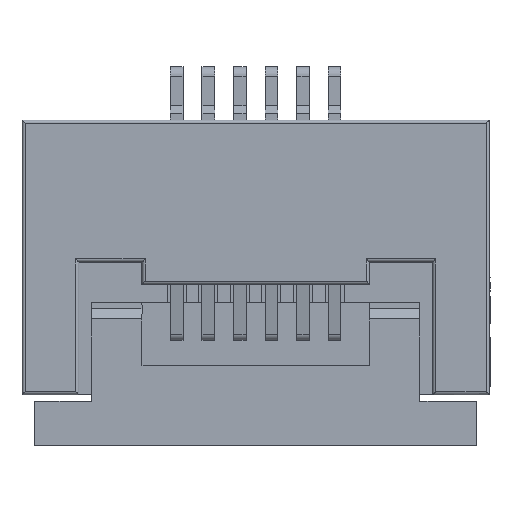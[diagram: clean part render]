
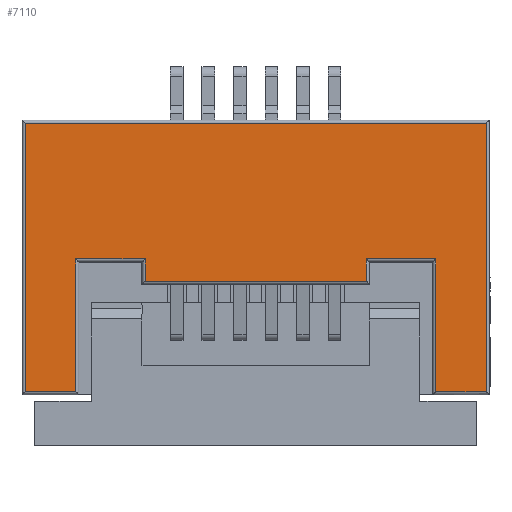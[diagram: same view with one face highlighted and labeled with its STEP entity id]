
A CAD part, top view. The second image highlights one B-rep face of the part: STEP entity #7110.
In plain terms, the highlighted planar face has unit normal (0, 0, 1).
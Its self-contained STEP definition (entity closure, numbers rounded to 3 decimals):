
#902 = CARTESIAN_POINT ( 'NONE',  ( -3.45, 2.075, 1. ) ) ;
#1244 = DIRECTION ( 'NONE',  ( 0., 1., 0. ) ) ;
#1280 = CARTESIAN_POINT ( 'NONE',  ( -3.4, 2.075, 1. ) ) ;
#1788 = CARTESIAN_POINT ( 'NONE',  ( 0.25, -0.075, 1. ) ) ;
#1939 = CARTESIAN_POINT ( 'NONE',  ( 2., -0.075, 1. ) ) ;
#2018 = LINE ( 'NONE', #20835, #6424 ) ;
#2092 = VECTOR ( 'NONE', #17998, 1000. ) ;
#2506 = DIRECTION ( 'NONE',  ( 0., 1., 0. ) ) ;
#2650 = LINE ( 'NONE', #4599, #3994 ) ;
#3032 = CARTESIAN_POINT ( 'NONE',  ( 3.9, 2.125, 1. ) ) ;
#3348 = VECTOR ( 'NONE', #15531, 1000. ) ;
#3467 = LINE ( 'NONE', #22423, #26353 ) ;
#3532 = VERTEX_POINT ( 'NONE', #8752 ) ;
#3692 = VERTEX_POINT ( 'NONE', #22764 ) ;
#3736 = EDGE_CURVE ( 'NONE', #19026, #23488, #2018, .T. ) ;
#3994 = VECTOR ( 'NONE', #2506, 1000. ) ;
#4014 = DIRECTION ( 'NONE',  ( 1., 0., 0. ) ) ;
#4143 = VERTEX_POINT ( 'NONE', #16670 ) ;
#4599 = CARTESIAN_POINT ( 'NONE',  ( -2.6, -1.075, 1. ) ) ;
#4979 = VECTOR ( 'NONE', #22670, 1000. ) ;
#6292 = DIRECTION ( 'NONE',  ( 1., 0., 0. ) ) ;
#6410 = EDGE_CURVE ( 'NONE', #22282, #19026, #3467, .T. ) ;
#6424 = VECTOR ( 'NONE', #8452, 1000. ) ;
#6803 = CARTESIAN_POINT ( 'NONE',  ( 0.25, -1.075, 1. ) ) ;
#7012 = VERTEX_POINT ( 'NONE', #13658 ) ;
#7110 = ADVANCED_FACE ( 'NONE', ( #16742 ), #10617, .F. ) ;
#7273 = LINE ( 'NONE', #3032, #18364 ) ;
#8452 = DIRECTION ( 'NONE',  ( 0., 1., 0. ) ) ;
#8462 = EDGE_LOOP ( 'NONE', ( #26521, #26591, #23603, #11479, #16804, #22811, #26347, #24734, #20138, #12610, #24440, #22534 ) ) ;
#8478 = CARTESIAN_POINT ( 'NONE',  ( -1.5, -0.425, 1. ) ) ;
#8752 = CARTESIAN_POINT ( 'NONE',  ( -3.4, -2.175, 1. ) ) ;
#9270 = VERTEX_POINT ( 'NONE', #20726 ) ;
#9674 = CARTESIAN_POINT ( 'NONE',  ( 3.1, -1.075, 1. ) ) ;
#10283 = EDGE_CURVE ( 'NONE', #3532, #22024, #18660, .T. ) ;
#10370 = EDGE_CURVE ( 'NONE', #19816, #3532, #19064, .T. ) ;
#10563 = CARTESIAN_POINT ( 'NONE',  ( 0.25, -2.175, 1. ) ) ;
#10617 = PLANE ( 'NONE',  #11456 ) ;
#11416 = EDGE_CURVE ( 'NONE', #14589, #7012, #15881, .T. ) ;
#11456 = AXIS2_PLACEMENT_3D ( 'NONE', #6803, #15117, #17440 ) ;
#11479 = ORIENTED_EDGE ( 'NONE', *, *, #6410, .T. ) ;
#11708 = CARTESIAN_POINT ( 'NONE',  ( -2.6, -0.075, 1. ) ) ;
#12610 = ORIENTED_EDGE ( 'NONE', *, *, #25880, .T. ) ;
#13582 = EDGE_CURVE ( 'NONE', #23488, #4143, #22622, .T. ) ;
#13658 = CARTESIAN_POINT ( 'NONE',  ( -1.5, -0.075, 1. ) ) ;
#14589 = VERTEX_POINT ( 'NONE', #11708 ) ;
#14625 = DIRECTION ( 'NONE',  ( 0., -1., 0. ) ) ;
#15117 = DIRECTION ( 'NONE',  ( 0., 0., -1. ) ) ;
#15531 = DIRECTION ( 'NONE',  ( -1., 0., 0. ) ) ;
#15881 = LINE ( 'NONE', #1788, #4979 ) ;
#16288 = CARTESIAN_POINT ( 'NONE',  ( -2.6, -2.175, 1. ) ) ;
#16472 = VECTOR ( 'NONE', #14625, 1000. ) ;
#16574 = CARTESIAN_POINT ( 'NONE',  ( 0.25, -2.175, 1. ) ) ;
#16670 = CARTESIAN_POINT ( 'NONE',  ( 3.1, -0.075, 1. ) ) ;
#16742 = FACE_OUTER_BOUND ( 'NONE', #8462, .T. ) ;
#16804 = ORIENTED_EDGE ( 'NONE', *, *, #3736, .T. ) ;
#17096 = DIRECTION ( 'NONE',  ( 0., -1., 0. ) ) ;
#17440 = DIRECTION ( 'NONE',  ( 0., 1., 0. ) ) ;
#17637 = VECTOR ( 'NONE', #17096, 1000. ) ;
#17811 = CARTESIAN_POINT ( 'NONE',  ( 3.9, 2.075, 1. ) ) ;
#17998 = DIRECTION ( 'NONE',  ( 0., -1., 0. ) ) ;
#18364 = VECTOR ( 'NONE', #1244, 1000. ) ;
#18660 = LINE ( 'NONE', #10563, #23423 ) ;
#19026 = VERTEX_POINT ( 'NONE', #23097 ) ;
#19064 = LINE ( 'NONE', #19201, #17637 ) ;
#19201 = CARTESIAN_POINT ( 'NONE',  ( -3.4, -2.225, 1. ) ) ;
#19297 = LINE ( 'NONE', #25737, #16472 ) ;
#19816 = VERTEX_POINT ( 'NONE', #1280 ) ;
#20138 = ORIENTED_EDGE ( 'NONE', *, *, #22996, .T. ) ;
#20494 = DIRECTION ( 'NONE',  ( 1., 0., 0. ) ) ;
#20665 = EDGE_CURVE ( 'NONE', #4143, #3692, #21904, .T. ) ;
#20726 = CARTESIAN_POINT ( 'NONE',  ( 3.9, -2.175, 1. ) ) ;
#20835 = CARTESIAN_POINT ( 'NONE',  ( 2., -1.075, 1. ) ) ;
#21904 = LINE ( 'NONE', #9674, #2092 ) ;
#22024 = VERTEX_POINT ( 'NONE', #16288 ) ;
#22282 = VERTEX_POINT ( 'NONE', #8478 ) ;
#22423 = CARTESIAN_POINT ( 'NONE',  ( 0.25, -0.425, 1. ) ) ;
#22534 = ORIENTED_EDGE ( 'NONE', *, *, #10283, .T. ) ;
#22622 = LINE ( 'NONE', #27127, #25373 ) ;
#22670 = DIRECTION ( 'NONE',  ( 1., 0., 0. ) ) ;
#22716 = EDGE_CURVE ( 'NONE', #3692, #9270, #24722, .T. ) ;
#22764 = CARTESIAN_POINT ( 'NONE',  ( 3.1, -2.175, 1. ) ) ;
#22766 = VECTOR ( 'NONE', #20494, 1000. ) ;
#22811 = ORIENTED_EDGE ( 'NONE', *, *, #13582, .T. ) ;
#22996 = EDGE_CURVE ( 'NONE', #9270, #26921, #7273, .T. ) ;
#23097 = CARTESIAN_POINT ( 'NONE',  ( 2., -0.425, 1. ) ) ;
#23271 = EDGE_CURVE ( 'NONE', #22024, #14589, #2650, .T. ) ;
#23423 = VECTOR ( 'NONE', #4014, 1000. ) ;
#23488 = VERTEX_POINT ( 'NONE', #1939 ) ;
#23603 = ORIENTED_EDGE ( 'NONE', *, *, #26416, .T. ) ;
#24232 = LINE ( 'NONE', #902, #3348 ) ;
#24440 = ORIENTED_EDGE ( 'NONE', *, *, #10370, .T. ) ;
#24445 = DIRECTION ( 'NONE',  ( 1., 0., 0. ) ) ;
#24722 = LINE ( 'NONE', #16574, #22766 ) ;
#24734 = ORIENTED_EDGE ( 'NONE', *, *, #22716, .T. ) ;
#25373 = VECTOR ( 'NONE', #6292, 1000. ) ;
#25737 = CARTESIAN_POINT ( 'NONE',  ( -1.5, -1.075, 1. ) ) ;
#25880 = EDGE_CURVE ( 'NONE', #26921, #19816, #24232, .T. ) ;
#26347 = ORIENTED_EDGE ( 'NONE', *, *, #20665, .T. ) ;
#26353 = VECTOR ( 'NONE', #24445, 1000. ) ;
#26416 = EDGE_CURVE ( 'NONE', #7012, #22282, #19297, .T. ) ;
#26521 = ORIENTED_EDGE ( 'NONE', *, *, #23271, .T. ) ;
#26591 = ORIENTED_EDGE ( 'NONE', *, *, #11416, .T. ) ;
#26921 = VERTEX_POINT ( 'NONE', #17811 ) ;
#27127 = CARTESIAN_POINT ( 'NONE',  ( 0.25, -0.075, 1. ) ) ;
